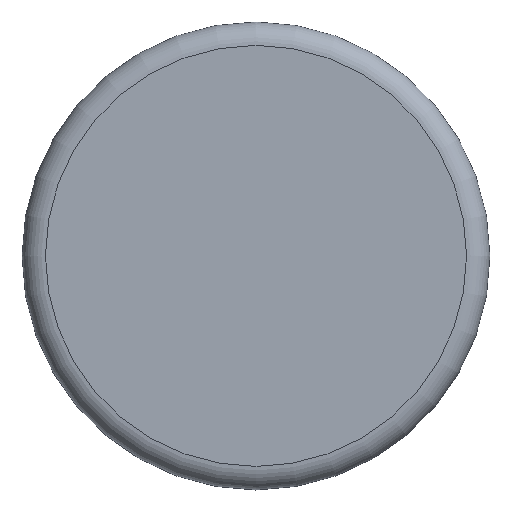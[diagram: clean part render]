
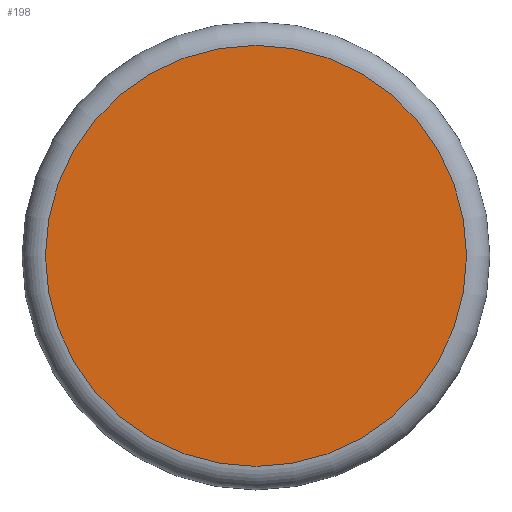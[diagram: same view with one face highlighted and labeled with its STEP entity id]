
A CAD part, top view. The second image highlights one B-rep face of the part: STEP entity #198.
In plain terms, the highlighted planar face has unit normal (0, 0, 1).
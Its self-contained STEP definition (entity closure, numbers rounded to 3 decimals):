
#66 = TOROIDAL_SURFACE('',#67,9.,1.);
#67 = AXIS2_PLACEMENT_3D('',#68,#69,#70);
#68 = CARTESIAN_POINT('',(47.,10.,86.));
#69 = DIRECTION('',(0.,0.,1.));
#70 = DIRECTION('',(1.,0.,-0.));
#110 = VERTEX_POINT('',#111);
#111 = CARTESIAN_POINT('',(56.,10.,87.));
#133 = EDGE_CURVE('',#110,#110,#134,.T.);
#134 = SURFACE_CURVE('',#135,(#140,#147),.PCURVE_S1.);
#135 = CIRCLE('',#136,9.);
#136 = AXIS2_PLACEMENT_3D('',#137,#138,#139);
#137 = CARTESIAN_POINT('',(47.,10.,87.));
#138 = DIRECTION('',(0.,0.,1.));
#139 = DIRECTION('',(1.,0.,-0.));
#140 = PCURVE('',#66,#141);
#141 = DEFINITIONAL_REPRESENTATION('',(#142),#146);
#142 = LINE('',#143,#144);
#143 = CARTESIAN_POINT('',(0.,1.571));
#144 = VECTOR('',#145,1.);
#145 = DIRECTION('',(1.,0.));
#146 = ( GEOMETRIC_REPRESENTATION_CONTEXT(2) 
PARAMETRIC_REPRESENTATION_CONTEXT() REPRESENTATION_CONTEXT('2D SPACE',''
  ) );
#147 = PCURVE('',#148,#153);
#148 = PLANE('',#149);
#149 = AXIS2_PLACEMENT_3D('',#150,#151,#152);
#150 = CARTESIAN_POINT('',(47.,10.,87.));
#151 = DIRECTION('',(0.,0.,1.));
#152 = DIRECTION('',(1.,0.,-0.));
#153 = DEFINITIONAL_REPRESENTATION('',(#154),#158);
#154 = CIRCLE('',#155,9.);
#155 = AXIS2_PLACEMENT_2D('',#156,#157);
#156 = CARTESIAN_POINT('',(0.,0.));
#157 = DIRECTION('',(1.,0.));
#158 = ( GEOMETRIC_REPRESENTATION_CONTEXT(2) 
PARAMETRIC_REPRESENTATION_CONTEXT() REPRESENTATION_CONTEXT('2D SPACE',''
  ) );
#198 = ADVANCED_FACE('',(#199),#148,.T.);
#199 = FACE_BOUND('',#200,.T.);
#200 = EDGE_LOOP('',(#201));
#201 = ORIENTED_EDGE('',*,*,#133,.T.);
